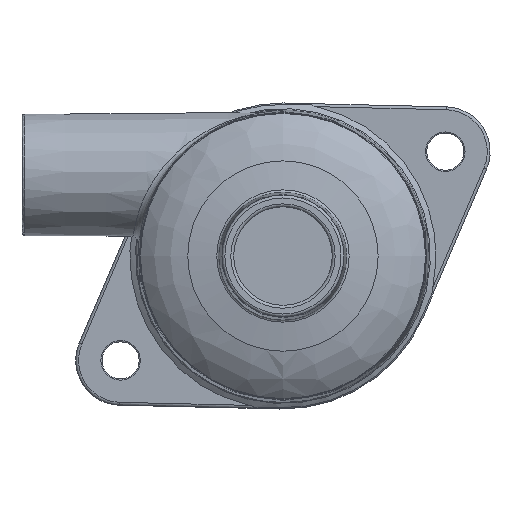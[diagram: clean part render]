
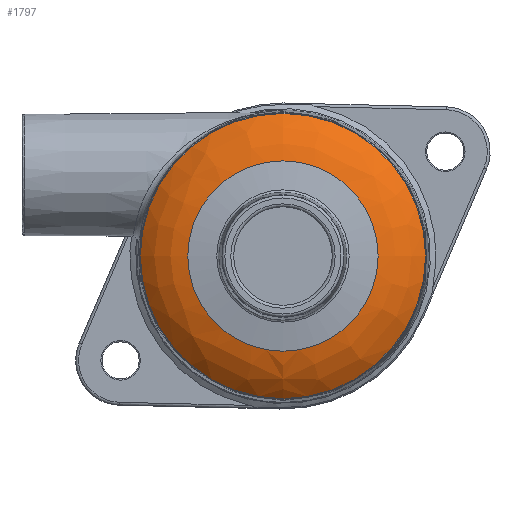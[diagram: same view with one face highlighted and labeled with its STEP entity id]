
A CAD part, left-side view. The second image highlights one B-rep face of the part: STEP entity #1797.
In plain terms, the highlighted free-form (B-spline) face has degree [3, 3] with [4, 7] control points.
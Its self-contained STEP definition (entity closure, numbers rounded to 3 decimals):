
#1269=(
BOUNDED_SURFACE()
B_SPLINE_SURFACE(3,3,((#5420,#5421,#5422,#5423,#5424,#5425,#5426),(#5427,
#5428,#5429,#5430,#5431,#5432,#5433),(#5434,#5435,#5436,#5437,#5438,#5439,
#5440),(#5441,#5442,#5443,#5444,#5445,#5446,#5447)),.UNSPECIFIED.,.F.,.T.,
 .F.)
B_SPLINE_SURFACE_WITH_KNOTS((4,4),(1,3,3,3,1),(0.,1.),(-0.5,0.,0.5,1.,1.5),
 .UNSPECIFIED.)
GEOMETRIC_REPRESENTATION_ITEM()
RATIONAL_B_SPLINE_SURFACE(((1.,0.333,0.333,1.,0.333,
0.333,1.),(0.968,0.323,0.323,
0.968,0.323,0.323,0.968),
(0.968,0.323,0.323,0.968,
0.323,0.323,0.968),(1.,0.333,
0.333,1.,0.333,0.333,1.)))
REPRESENTATION_ITEM('')
SURFACE()
);
#1797=ADVANCED_FACE('',(#2005,#2006),#1269,.T.);
#2005=FACE_BOUND('',#2115,.T.);
#2006=FACE_BOUND('',#2116,.T.);
#2115=EDGE_LOOP('',(#2450));
#2116=EDGE_LOOP('',(#2451));
#2450=ORIENTED_EDGE('',*,*,#3416,.T.);
#2451=ORIENTED_EDGE('',*,*,#3417,.F.);
#3171=VERTEX_POINT('',#5417);
#3172=VERTEX_POINT('',#5419);
#3416=EDGE_CURVE('',#3171,#3171,#3718,.T.);
#3417=EDGE_CURVE('',#3172,#3172,#3719,.T.);
#3718=CIRCLE('',#3914,24.596);
#3719=CIRCLE('',#3915,16.414);
#3914=AXIS2_PLACEMENT_3D('',#5416,#4336,#4337);
#3915=AXIS2_PLACEMENT_3D('',#5418,#4338,#4339);
#4336=DIRECTION('',(-1.,0.,0.));
#4337=DIRECTION('',(0.,0.,1.));
#4338=DIRECTION('',(-1.,0.,0.));
#4339=DIRECTION('',(0.,0.,-1.));
#5416=CARTESIAN_POINT('',(-10.903,-8.708,-44.883));
#5417=CARTESIAN_POINT('',(-10.903,-8.708,-20.287));
#5418=CARTESIAN_POINT('',(-15.143,-8.708,-44.883));
#5419=CARTESIAN_POINT('',(-15.143,-8.708,-61.297));
#5420=CARTESIAN_POINT('',(-15.143,-8.708,-61.297));
#5421=CARTESIAN_POINT('',(-15.143,-41.535,-61.297));
#5422=CARTESIAN_POINT('',(-15.143,-41.535,-28.47));
#5423=CARTESIAN_POINT('',(-15.143,-8.708,-28.47));
#5424=CARTESIAN_POINT('',(-15.143,24.119,-28.47));
#5425=CARTESIAN_POINT('',(-15.143,24.119,-61.297));
#5426=CARTESIAN_POINT('',(-15.143,-8.708,-61.297));
#5427=CARTESIAN_POINT('',(-14.619,-8.708,-64.428));
#5428=CARTESIAN_POINT('',(-14.619,-47.797,-64.428));
#5429=CARTESIAN_POINT('',(-14.619,-47.797,-25.339));
#5430=CARTESIAN_POINT('',(-14.619,-8.708,-25.339));
#5431=CARTESIAN_POINT('',(-14.619,30.381,-25.339));
#5432=CARTESIAN_POINT('',(-14.619,30.381,-64.428));
#5433=CARTESIAN_POINT('',(-14.619,-8.708,-64.428));
#5434=CARTESIAN_POINT('',(-13.159,-8.708,-67.246));
#5435=CARTESIAN_POINT('',(-13.159,-53.433,-67.246));
#5436=CARTESIAN_POINT('',(-13.159,-53.433,-22.521));
#5437=CARTESIAN_POINT('',(-13.159,-8.708,-22.521));
#5438=CARTESIAN_POINT('',(-13.159,36.017,-22.521));
#5439=CARTESIAN_POINT('',(-13.159,36.017,-67.246));
#5440=CARTESIAN_POINT('',(-13.159,-8.708,-67.246));
#5441=CARTESIAN_POINT('',(-10.903,-8.708,-69.48));
#5442=CARTESIAN_POINT('',(-10.903,-57.9,-69.48));
#5443=CARTESIAN_POINT('',(-10.903,-57.9,-20.287));
#5444=CARTESIAN_POINT('',(-10.903,-8.708,-20.287));
#5445=CARTESIAN_POINT('',(-10.903,40.485,-20.287));
#5446=CARTESIAN_POINT('',(-10.903,40.485,-69.48));
#5447=CARTESIAN_POINT('',(-10.903,-8.708,-69.48));
